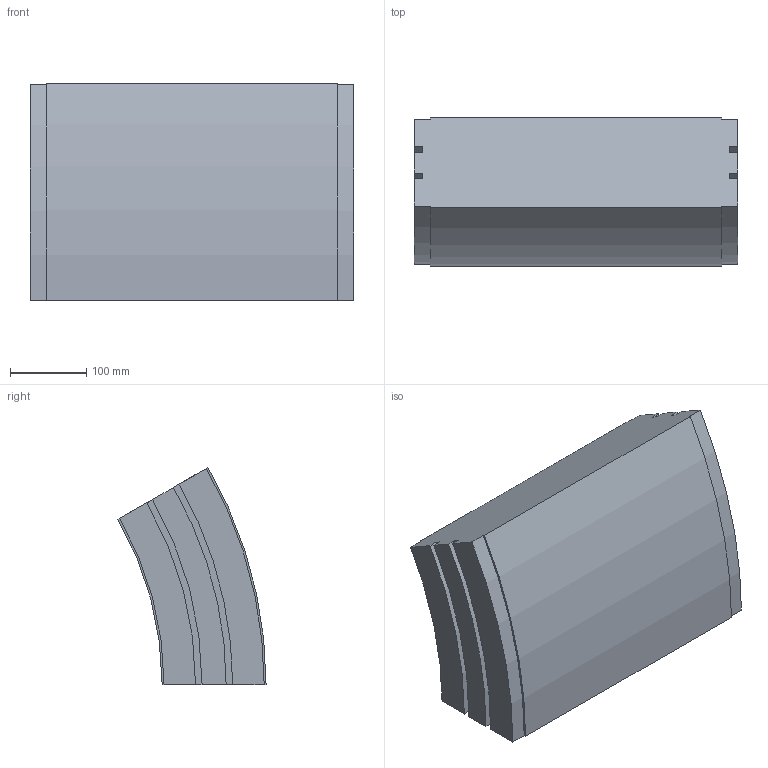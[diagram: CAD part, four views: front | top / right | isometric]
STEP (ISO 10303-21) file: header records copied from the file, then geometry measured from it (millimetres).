
FILE_DESCRIPTION (( 'STEP AP214' ), '1' );
FILE_NAME ('02.150V30.420.N FS-350-MTC-150 Bocht verticaal 30°.STEP', '2013-03-29T12:31:44', ( 'Gebruiker' ), ( '' ), 'SwSTEP 2.0', 'SolidWorks 2012', '' );
FILE_SCHEMA (( 'AUTOMOTIVE_DESIGN' ));
Length unit declared in the file: millimetre
Products named in the file (1): 02.150V30.420.N FS-350-MTC-150 Bocht verticaal 30°
Bounding box: 423 x 193.88 x 284 mm (x, y, z)
Volume: 14907904.3 mm3; surface area: 429618.1 mm2
Topology: 1 solids, 1 shells, 30 faces, 84 edges, 56 vertices
Faces by surface type: plane 16, cylinder 14
Entity records: 1010 total; most frequent: DIRECTION 174, CARTESIAN_POINT 171, ORIENTED_EDGE 168, EDGE_CURVE 84, AXIS2_PLACEMENT_3D 59, VERTEX_POINT 56, VECTOR 56, LINE 56
